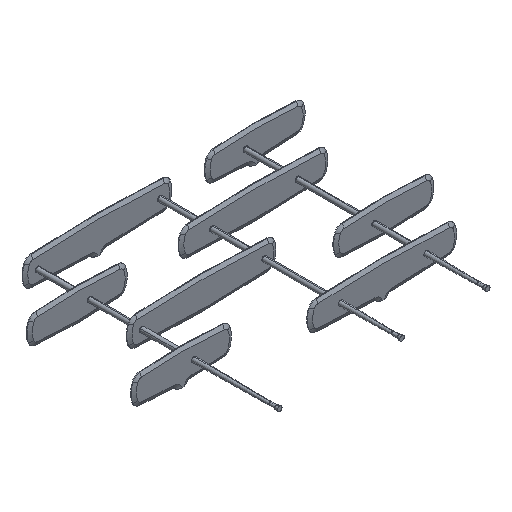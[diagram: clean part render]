
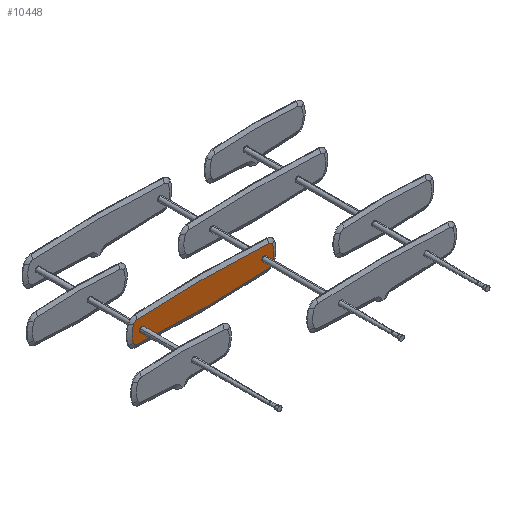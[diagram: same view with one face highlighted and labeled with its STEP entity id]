
A CAD part, isometric view. The second image highlights one B-rep face of the part: STEP entity #10448.
In plain terms, the highlighted planar face has unit normal (0, -1, 0).
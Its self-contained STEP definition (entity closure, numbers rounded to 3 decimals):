
#47 = ORIENTED_EDGE ( 'NONE', *, *, #4734, .T. ) ;
#112 = DIRECTION ( 'NONE',  ( 0., 0., 1. ) ) ;
#129 = EDGE_CURVE ( 'NONE', #10574, #8030, #3027, .T. ) ;
#162 = CIRCLE ( 'NONE', #4609, 5. ) ;
#722 = CARTESIAN_POINT ( 'NONE',  ( -500., 0., 7.151 ) ) ;
#927 = EDGE_CURVE ( 'NONE', #10905, #13059, #11548, .T. ) ;
#950 = CIRCLE ( 'NONE', #1337, 5. ) ;
#1143 = FACE_BOUND ( 'NONE', #8206, .T. ) ;
#1337 = AXIS2_PLACEMENT_3D ( 'NONE', #722, #10056, #12145 ) ;
#1482 = CARTESIAN_POINT ( 'NONE',  ( -537.222, 0., 95.08 ) ) ;
#1514 = CIRCLE ( 'NONE', #7907, 35. ) ;
#1566 = DIRECTION ( 'NONE',  ( 0., 0., 1. ) ) ;
#1573 = CARTESIAN_POINT ( 'NONE',  ( -500., 0., 2.151 ) ) ;
#1638 = DIRECTION ( 'NONE',  ( 0., 0., 1. ) ) ;
#1866 = AXIS2_PLACEMENT_3D ( 'NONE', #7847, #9749, #1566 ) ;
#2069 = CARTESIAN_POINT ( 'NONE',  ( -399.55, 0., 7.151 ) ) ;
#2124 = CARTESIAN_POINT ( 'NONE',  ( 156.855, 0., 110.905 ) ) ;
#2143 = FACE_BOUND ( 'NONE', #11004, .T. ) ;
#2202 = AXIS2_PLACEMENT_3D ( 'NONE', #8424, #8469, #112 ) ;
#2241 = EDGE_CURVE ( 'NONE', #13541, #9970, #10325, .T. ) ;
#2298 = CARTESIAN_POINT ( 'NONE',  ( -537.222, 0., -80.779 ) ) ;
#2422 = EDGE_CURVE ( 'NONE', #13059, #10905, #162, .T. ) ;
#2697 = VERTEX_POINT ( 'NONE', #6681 ) ;
#2710 = ORIENTED_EDGE ( 'NONE', *, *, #2422, .T. ) ;
#2821 = EDGE_CURVE ( 'NONE', #8118, #10574, #11559, .T. ) ;
#2871 = DIRECTION ( 'NONE',  ( 0., 1., 0. ) ) ;
#3005 = EDGE_CURVE ( 'NONE', #2697, #4164, #7069, .T. ) ;
#3027 = CIRCLE ( 'NONE', #6673, 35. ) ;
#3108 = DIRECTION ( 'NONE',  ( 0., 0., 1. ) ) ;
#3167 = CARTESIAN_POINT ( 'NONE',  ( -537.222, 0., 95.08 ) ) ;
#3275 = FACE_OUTER_BOUND ( 'NONE', #4713, .T. ) ;
#3594 = ORIENTED_EDGE ( 'NONE', *, *, #11981, .T. ) ;
#3616 = CARTESIAN_POINT ( 'NONE',  ( -567.594, 0., 72.904 ) ) ;
#3796 = CARTESIAN_POINT ( 'NONE',  ( -447.786, 0., -86.468 ) ) ;
#3814 = CARTESIAN_POINT ( 'NONE',  ( 500., 0., 7.151 ) ) ;
#4144 = B_SPLINE_CURVE_WITH_KNOTS ( 'NONE', 3,
 ( #10441, #5204, #7248, #2124, #7199, #10395, #11424, #10785, #6143, #9435, #7298, #3167 ),
 .UNSPECIFIED., .F., .F.,
 ( 4, 1, 1, 1, 1, 2, 2, 4 ),
 ( 0., 0.25, 0.375, 0.438, 0.469, 0.484, 0.5, 1. ),
 .UNSPECIFIED. ) ;
#4164 = VERTEX_POINT ( 'NONE', #12593 ) ;
#4490 = DIRECTION ( 'NONE',  ( 0., 0., 1. ) ) ;
#4543 = AXIS2_PLACEMENT_3D ( 'NONE', #10450, #10403, #12536 ) ;
#4555 = CARTESIAN_POINT ( 'NONE',  ( -500., 0., 12.151 ) ) ;
#4609 = AXIS2_PLACEMENT_3D ( 'NONE', #3814, #2871, #12331 ) ;
#4684 = CARTESIAN_POINT ( 'NONE',  ( 358.307, 0., -92.161 ) ) ;
#4713 = EDGE_LOOP ( 'NONE', ( #11423, #8721, #13501, #13148, #12626, #12968, #7591, #3594 ) ) ;
#4734 = EDGE_CURVE ( 'NONE', #9970, #13541, #950, .T. ) ;
#5054 = CIRCLE ( 'NONE', #9284, 180.45 ) ;
#5204 = CARTESIAN_POINT ( 'NONE',  ( 447.787, 0., 100.769 ) ) ;
#5332 = DIRECTION ( 'NONE',  ( 0., 0., 1. ) ) ;
#5617 = CARTESIAN_POINT ( 'NONE',  ( -500., 0., 7.151 ) ) ;
#5680 = CARTESIAN_POINT ( 'NONE',  ( -11.267, 0., -97.844 ) ) ;
#6089 = CIRCLE ( 'NONE', #6499, 35. ) ;
#6092 = DIRECTION ( 'NONE',  ( 0., 0., 1. ) ) ;
#6143 = CARTESIAN_POINT ( 'NONE',  ( 5.667, 0., 112.15 ) ) ;
#6499 = AXIS2_PLACEMENT_3D ( 'NONE', #7869, #10032, #13270 ) ;
#6673 = AXIS2_PLACEMENT_3D ( 'NONE', #12516, #13571, #3108 ) ;
#6675 = CARTESIAN_POINT ( 'NONE',  ( -567.594, 0., -58.603 ) ) ;
#6681 = CARTESIAN_POINT ( 'NONE',  ( 567.594, 0., 72.904 ) ) ;
#6688 = CIRCLE ( 'NONE', #1866, 180.45 ) ;
#6723 = CARTESIAN_POINT ( 'NONE',  ( 537.222, 0., -80.779 ) ) ;
#6767 = CARTESIAN_POINT ( 'NONE',  ( 179.212, 0., -97.851 ) ) ;
#6871 = EDGE_CURVE ( 'NONE', #13550, #12852, #6089, .T. ) ;
#6898 = CARTESIAN_POINT ( 'NONE',  ( -5.667, 0., -97.849 ) ) ;
#6956 = EDGE_CURVE ( 'NONE', #12762, #8118, #1514, .T. ) ;
#7069 = CIRCLE ( 'NONE', #4543, 35. ) ;
#7199 = CARTESIAN_POINT ( 'NONE',  ( 78.47, 0., 111.839 ) ) ;
#7248 = CARTESIAN_POINT ( 'NONE',  ( 313.565, 0., 107.17 ) ) ;
#7298 = CARTESIAN_POINT ( 'NONE',  ( -358.307, 0., 106.462 ) ) ;
#7347 = DIRECTION ( 'NONE',  ( 0., -1., 0. ) ) ;
#7443 = CARTESIAN_POINT ( 'NONE',  ( 567.594, 0., -58.603 ) ) ;
#7591 = ORIENTED_EDGE ( 'NONE', *, *, #6871, .T. ) ;
#7623 = CARTESIAN_POINT ( 'NONE',  ( -399.55, 0., 7.151 ) ) ;
#7847 = CARTESIAN_POINT ( 'NONE',  ( 399.55, 0., 7.151 ) ) ;
#7869 = CARTESIAN_POINT ( 'NONE',  ( -535., 0., 60.151 ) ) ;
#7907 = AXIS2_PLACEMENT_3D ( 'NONE', #8054, #9947, #1638 ) ;
#8030 = VERTEX_POINT ( 'NONE', #7443 ) ;
#8054 = CARTESIAN_POINT ( 'NONE',  ( -535., 0., -45.849 ) ) ;
#8118 = VERTEX_POINT ( 'NONE', #2298 ) ;
#8206 = EDGE_LOOP ( 'NONE', ( #2710, #12499 ) ) ;
#8225 = EDGE_CURVE ( 'NONE', #8030, #2697, #6688, .T. ) ;
#8424 = CARTESIAN_POINT ( 'NONE',  ( 500., 0., 7.151 ) ) ;
#8469 = DIRECTION ( 'NONE',  ( 0., 1., 0. ) ) ;
#8710 = CARTESIAN_POINT ( 'NONE',  ( 537.222, 0., -80.779 ) ) ;
#8721 = ORIENTED_EDGE ( 'NONE', *, *, #2821, .T. ) ;
#9133 = CARTESIAN_POINT ( 'NONE',  ( 500., 0., 12.151 ) ) ;
#9284 = AXIS2_PLACEMENT_3D ( 'NONE', #2069, #7347, #6092 ) ;
#9435 = CARTESIAN_POINT ( 'NONE',  ( -179.211, 0., 112.152 ) ) ;
#9749 = DIRECTION ( 'NONE',  ( 0., -1., 0. ) ) ;
#9947 = DIRECTION ( 'NONE',  ( 0., -1., 0. ) ) ;
#9955 = CARTESIAN_POINT ( 'NONE',  ( -22.468, 0., -97.822 ) ) ;
#9970 = VERTEX_POINT ( 'NONE', #4555 ) ;
#10032 = DIRECTION ( 'NONE',  ( 0., -1., 0. ) ) ;
#10056 = DIRECTION ( 'NONE',  ( 0., 1., 0. ) ) ;
#10325 = CIRCLE ( 'NONE', #13022, 5. ) ;
#10368 = EDGE_CURVE ( 'NONE', #4164, #13550, #4144, .T. ) ;
#10395 = CARTESIAN_POINT ( 'NONE',  ( 39.27, 0., 112.072 ) ) ;
#10403 = DIRECTION ( 'NONE',  ( 0., -1., 0. ) ) ;
#10441 = CARTESIAN_POINT ( 'NONE',  ( 537.222, 0., 95.08 ) ) ;
#10448 = ADVANCED_FACE ( 'NONE', ( #2143, #1143, #3275 ), #10670, .F. ) ;
#10450 = CARTESIAN_POINT ( 'NONE',  ( 535., 0., 60.151 ) ) ;
#10531 = DIRECTION ( 'NONE',  ( 0., 1., 0. ) ) ;
#10574 = VERTEX_POINT ( 'NONE', #8710 ) ;
#10670 = PLANE ( 'NONE',  #11383 ) ;
#10733 = DIRECTION ( 'NONE',  ( 0., 1., 0. ) ) ;
#10785 = CARTESIAN_POINT ( 'NONE',  ( 11.267, 0., 112.145 ) ) ;
#10905 = VERTEX_POINT ( 'NONE', #12325 ) ;
#11004 = EDGE_LOOP ( 'NONE', ( #47, #13091 ) ) ;
#11383 = AXIS2_PLACEMENT_3D ( 'NONE', #7623, #10531, #5332 ) ;
#11423 = ORIENTED_EDGE ( 'NONE', *, *, #6956, .T. ) ;
#11424 = CARTESIAN_POINT ( 'NONE',  ( 22.468, 0., 112.123 ) ) ;
#11548 = CIRCLE ( 'NONE', #2202, 5. ) ;
#11559 = B_SPLINE_CURVE_WITH_KNOTS ( 'NONE', 3,
 ( #13005, #3796, #11962, #13127, #12131, #12093, #9955, #5680, #6898, #6767, #4684, #6723 ),
 .UNSPECIFIED., .F., .F.,
 ( 4, 1, 1, 1, 1, 2, 2, 4 ),
 ( 0., 0.25, 0.375, 0.438, 0.469, 0.484, 0.5, 1. ),
 .UNSPECIFIED. ) ;
#11962 = CARTESIAN_POINT ( 'NONE',  ( -313.565, 0., -92.869 ) ) ;
#11981 = EDGE_CURVE ( 'NONE', #12852, #12762, #5054, .T. ) ;
#12093 = CARTESIAN_POINT ( 'NONE',  ( -39.27, 0., -97.771 ) ) ;
#12131 = CARTESIAN_POINT ( 'NONE',  ( -78.469, 0., -97.538 ) ) ;
#12145 = DIRECTION ( 'NONE',  ( 0., 0., 1. ) ) ;
#12325 = CARTESIAN_POINT ( 'NONE',  ( 500., 0., 2.151 ) ) ;
#12331 = DIRECTION ( 'NONE',  ( 0., 0., 1. ) ) ;
#12499 = ORIENTED_EDGE ( 'NONE', *, *, #927, .T. ) ;
#12516 = CARTESIAN_POINT ( 'NONE',  ( 535., 0., -45.849 ) ) ;
#12536 = DIRECTION ( 'NONE',  ( 0., 0., 1. ) ) ;
#12593 = CARTESIAN_POINT ( 'NONE',  ( 537.222, 0., 95.08 ) ) ;
#12626 = ORIENTED_EDGE ( 'NONE', *, *, #3005, .T. ) ;
#12762 = VERTEX_POINT ( 'NONE', #6675 ) ;
#12852 = VERTEX_POINT ( 'NONE', #3616 ) ;
#12968 = ORIENTED_EDGE ( 'NONE', *, *, #10368, .T. ) ;
#13005 = CARTESIAN_POINT ( 'NONE',  ( -537.222, 0., -80.779 ) ) ;
#13022 = AXIS2_PLACEMENT_3D ( 'NONE', #5617, #10733, #4490 ) ;
#13059 = VERTEX_POINT ( 'NONE', #9133 ) ;
#13091 = ORIENTED_EDGE ( 'NONE', *, *, #2241, .T. ) ;
#13127 = CARTESIAN_POINT ( 'NONE',  ( -156.854, 0., -96.604 ) ) ;
#13148 = ORIENTED_EDGE ( 'NONE', *, *, #8225, .T. ) ;
#13270 = DIRECTION ( 'NONE',  ( 0., 0., 1. ) ) ;
#13501 = ORIENTED_EDGE ( 'NONE', *, *, #129, .T. ) ;
#13541 = VERTEX_POINT ( 'NONE', #1573 ) ;
#13550 = VERTEX_POINT ( 'NONE', #1482 ) ;
#13571 = DIRECTION ( 'NONE',  ( 0., -1., 0. ) ) ;
